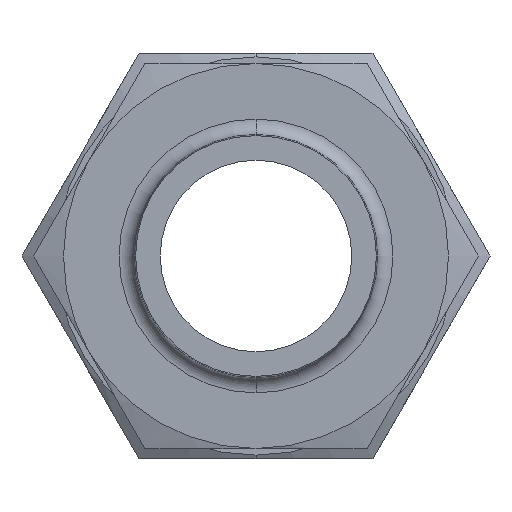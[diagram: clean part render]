
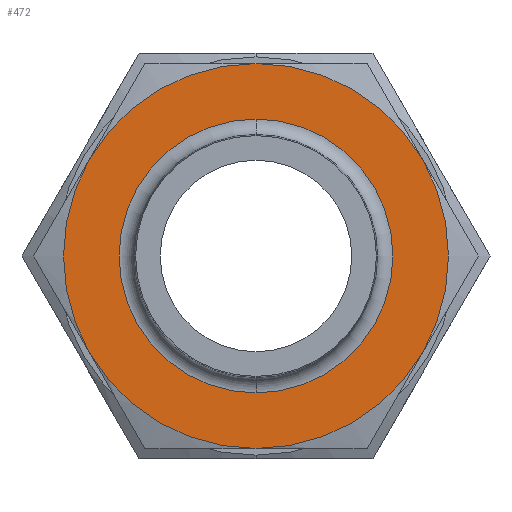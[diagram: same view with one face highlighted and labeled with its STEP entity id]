
A CAD part, left-side view. The second image highlights one B-rep face of the part: STEP entity #472.
In plain terms, the highlighted planar face has unit normal (-1, 0, 0).
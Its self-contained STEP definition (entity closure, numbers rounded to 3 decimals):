
#52 = VERTEX_POINT ( 'NONE', #625 ) ;
#67 = VERTEX_POINT ( 'NONE', #814 ) ;
#86 = VERTEX_POINT ( 'NONE', #986 ) ;
#124 = VERTEX_POINT ( 'NONE', #914 ) ;
#131 = VERTEX_POINT ( 'NONE', #897 ) ;
#451 = EDGE_CURVE ( 'NONE', #452, #453, #1598, .T. ) ;
#452 = VERTEX_POINT ( 'NONE', #1499 ) ;
#453 = VERTEX_POINT ( 'NONE', #1498 ) ;
#472 = ADVANCED_FACE ( 'NONE', ( #1516, #1515 ), #1519, .F. ) ;
#473 = EDGE_LOOP ( 'NONE', ( #474, #476 ) ) ;
#474 = ORIENTED_EDGE ( 'NONE', *, *, #475, .T. ) ;
#475 = EDGE_CURVE ( 'NONE', #453, #452, #1508, .T. ) ;
#476 = ORIENTED_EDGE ( 'NONE', *, *, #451, .T. ) ;
#477 = EDGE_LOOP ( 'NONE', ( #478, #480, #482, #537, #539, #541 ) ) ;
#478 = ORIENTED_EDGE ( 'NONE', *, *, #479, .F. ) ;
#479 = EDGE_CURVE ( 'NONE', #131, #515, #1551, .T. ) ;
#480 = ORIENTED_EDGE ( 'NONE', *, *, #481, .F. ) ;
#481 = EDGE_CURVE ( 'NONE', #124, #131, #1547, .T. ) ;
#482 = ORIENTED_EDGE ( 'NONE', *, *, #536, .F. ) ;
#515 = VERTEX_POINT ( 'NONE', #1678 ) ;
#536 = EDGE_CURVE ( 'NONE', #67, #124, #1719, .T. ) ;
#537 = ORIENTED_EDGE ( 'NONE', *, *, #538, .F. ) ;
#538 = EDGE_CURVE ( 'NONE', #86, #67, #1716, .T. ) ;
#539 = ORIENTED_EDGE ( 'NONE', *, *, #540, .T. ) ;
#540 = EDGE_CURVE ( 'NONE', #86, #52, #1768, .T. ) ;
#541 = ORIENTED_EDGE ( 'NONE', *, *, #542, .F. ) ;
#542 = EDGE_CURVE ( 'NONE', #515, #52, #1746, .T. ) ;
#625 = CARTESIAN_POINT ( 'NONE',  ( 0., 13.06, 7.54 ) ) ;
#814 = CARTESIAN_POINT ( 'NONE',  ( 0., -13.06, 7.54 ) ) ;
#897 = CARTESIAN_POINT ( 'NONE',  ( 0., 0., -15.08 ) ) ;
#914 = CARTESIAN_POINT ( 'NONE',  ( 0., -13.06, -7.54 ) ) ;
#986 = CARTESIAN_POINT ( 'NONE',  ( 0., 0., 15.08 ) ) ;
#1318 = AXIS2_PLACEMENT_3D ( 'NONE', #1460, #1603, #1663 ) ;
#1460 = CARTESIAN_POINT ( 'NONE',  ( 0., 0., 0. ) ) ;
#1498 = CARTESIAN_POINT ( 'NONE',  ( 0., 0., -10.725 ) ) ;
#1499 = CARTESIAN_POINT ( 'NONE',  ( 0., 0., 10.725 ) ) ;
#1500 = DIRECTION ( 'NONE',  ( 0., 0., -1. ) ) ;
#1501 = DIRECTION ( 'NONE',  ( 1., 0., 0. ) ) ;
#1502 = CARTESIAN_POINT ( 'NONE',  ( 0., 0., 0. ) ) ;
#1503 = AXIS2_PLACEMENT_3D ( 'NONE', #1502, #1501, #1500 ) ;
#1504 = CARTESIAN_POINT ( 'NONE',  ( 0., 0., 0. ) ) ;
#1505 = DIRECTION ( 'NONE',  ( 0., 0., -1. ) ) ;
#1506 = DIRECTION ( 'NONE',  ( 1., 0., 0. ) ) ;
#1507 = AXIS2_PLACEMENT_3D ( 'NONE', #1517, #1506, #1505 ) ;
#1508 = CIRCLE ( 'NONE', #1503, 10.725 ) ;
#1515 = FACE_OUTER_BOUND ( 'NONE', #477, .T. ) ;
#1516 = FACE_BOUND ( 'NONE', #473, .T. ) ;
#1517 = CARTESIAN_POINT ( 'NONE',  ( 0., 17.413, 0. ) ) ;
#1519 = PLANE ( 'NONE',  #1507 ) ;
#1543 = DIRECTION ( 'NONE',  ( 0., 0., -1. ) ) ;
#1544 = DIRECTION ( 'NONE',  ( 1., 0., 0. ) ) ;
#1545 = CARTESIAN_POINT ( 'NONE',  ( 0., 0., 0. ) ) ;
#1546 = AXIS2_PLACEMENT_3D ( 'NONE', #1545, #1544, #1543 ) ;
#1547 = CIRCLE ( 'NONE', #1546, 15.08 ) ;
#1548 = DIRECTION ( 'NONE',  ( 0., 0., -1. ) ) ;
#1549 = DIRECTION ( 'NONE',  ( 1., 0., 0. ) ) ;
#1550 = AXIS2_PLACEMENT_3D ( 'NONE', #1504, #1549, #1548 ) ;
#1551 = CIRCLE ( 'NONE', #1550, 15.08 ) ;
#1592 = DIRECTION ( 'NONE',  ( 0., 0., -1. ) ) ;
#1593 = DIRECTION ( 'NONE',  ( 1., 0., 0. ) ) ;
#1594 = CARTESIAN_POINT ( 'NONE',  ( 0., 0., 0. ) ) ;
#1595 = AXIS2_PLACEMENT_3D ( 'NONE', #1594, #1593, #1592 ) ;
#1598 = CIRCLE ( 'NONE', #1595, 10.725 ) ;
#1603 = DIRECTION ( 'NONE',  ( 1., 0., 0. ) ) ;
#1663 = DIRECTION ( 'NONE',  ( 0., 0., -1. ) ) ;
#1678 = CARTESIAN_POINT ( 'NONE',  ( 0., 13.06, -7.54 ) ) ;
#1716 = CIRCLE ( 'NONE', #1318, 15.08 ) ;
#1719 = CIRCLE ( 'NONE', #1724, 15.08 ) ;
#1721 = DIRECTION ( 'NONE',  ( 0., 0., -1. ) ) ;
#1722 = DIRECTION ( 'NONE',  ( 1., 0., 0. ) ) ;
#1723 = CARTESIAN_POINT ( 'NONE',  ( 0., 0., 0. ) ) ;
#1724 = AXIS2_PLACEMENT_3D ( 'NONE', #1723, #1722, #1721 ) ;
#1744 = CARTESIAN_POINT ( 'NONE',  ( 0., 0., 0. ) ) ;
#1745 = AXIS2_PLACEMENT_3D ( 'NONE', #1744, #1767, #1764 ) ;
#1746 = CIRCLE ( 'NONE', #1745, 15.08 ) ;
#1760 = AXIS2_PLACEMENT_3D ( 'NONE', #1769, #1766, #1765 ) ;
#1764 = DIRECTION ( 'NONE',  ( 0., 0., -1. ) ) ;
#1765 = DIRECTION ( 'NONE',  ( 0., 0., 1. ) ) ;
#1766 = DIRECTION ( 'NONE',  ( -1., 0., 0. ) ) ;
#1767 = DIRECTION ( 'NONE',  ( 1., 0., 0. ) ) ;
#1768 = CIRCLE ( 'NONE', #1760, 15.08 ) ;
#1769 = CARTESIAN_POINT ( 'NONE',  ( 0., 0., 0. ) ) ;
